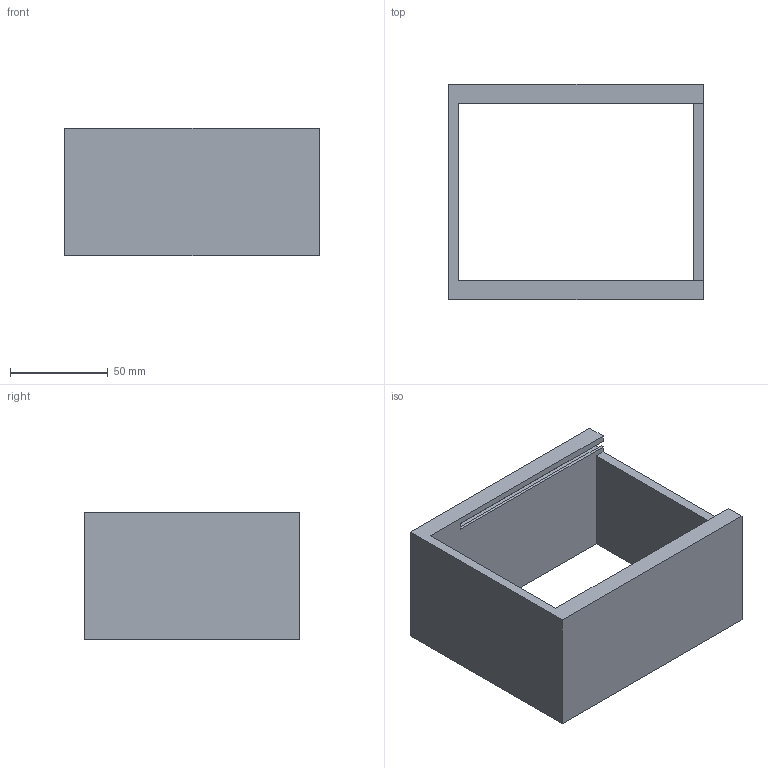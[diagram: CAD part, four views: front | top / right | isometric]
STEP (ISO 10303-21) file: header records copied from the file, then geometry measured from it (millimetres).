
FILE_DESCRIPTION(/* description */ (''),/* implementation_level */ '2;1');
FILE_NAME(/* name */ 'pudlo_poprawione.stp',/* time_stamp */ '2025-06-07T13:32:32+02:00',/* author */ (''),/* organization */ (''),/* preprocessor_version */ 'ST-DEVELOPER v20',/* originating_system */ 'SIEMENS PLM Software NX2412.3001',/* authorisation */ '');
FILE_SCHEMA (('AUTOMOTIVE_DESIGN { 1 0 10303 214 3 1 1 1 }'));
Length unit declared in the file: millimetre
Products named in the file (1): pudlo
Bounding box: 130 x 110 x 65 mm (x, y, z)
Volume: 211158 mm3; surface area: 66703.6 mm2
Topology: 1 solids, 1 shells, 23 faces, 66 edges, 44 vertices
Faces by surface type: plane 23
Entity records: 768 total; most frequent: CARTESIAN_POINT 134, ORIENTED_EDGE 132, DIRECTION 114, EDGE_CURVE 66, LINE 66, VECTOR 66, VERTEX_POINT 44, EDGE_LOOP 24
